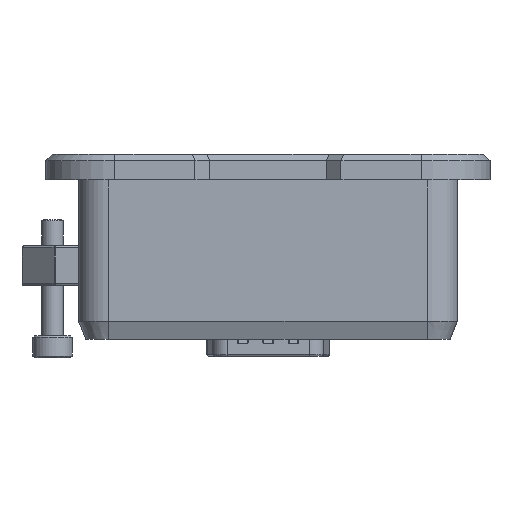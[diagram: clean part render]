
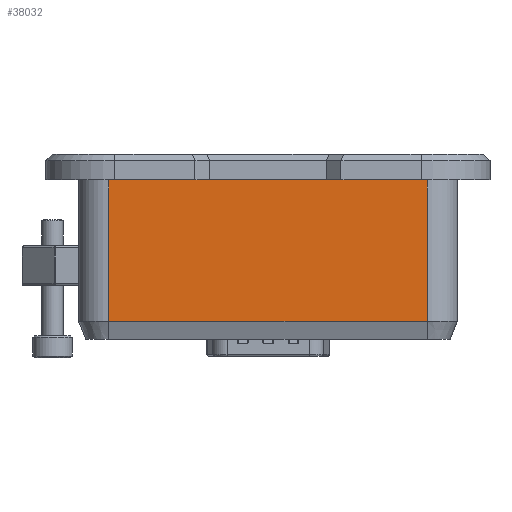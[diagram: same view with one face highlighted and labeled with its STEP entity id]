
A CAD part, left-side view. The second image highlights one B-rep face of the part: STEP entity #38032.
In plain terms, the highlighted planar face has unit normal (-1, 0, 0).
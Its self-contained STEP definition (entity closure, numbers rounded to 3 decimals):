
#5754=FACE_OUTER_BOUND('',#8120,.T.);
#8120=EDGE_LOOP('',(#31806,#31807,#31808,#31809));
#10894=LINE('',#73492,#13897);
#10947=LINE('',#73622,#13950);
#11113=LINE('',#74054,#14116);
#11114=LINE('',#74055,#14117);
#13897=VECTOR('',#48204,10.);
#13950=VECTOR('',#48315,10.);
#14116=VECTOR('',#48673,10.);
#14117=VECTOR('',#48674,10.);
#17308=VERTEX_POINT('',#73490);
#17309=VERTEX_POINT('',#73491);
#17353=VERTEX_POINT('',#73608);
#17357=VERTEX_POINT('',#73620);
#22200=EDGE_CURVE('',#17308,#17309,#10894,.T.);
#22265=EDGE_CURVE('',#17357,#17353,#10947,.T.);
#22455=EDGE_CURVE('',#17357,#17308,#11113,.T.);
#22456=EDGE_CURVE('',#17353,#17309,#11114,.T.);
#31806=ORIENTED_EDGE('',*,*,#22265,.F.);
#31807=ORIENTED_EDGE('',*,*,#22455,.T.);
#31808=ORIENTED_EDGE('',*,*,#22200,.T.);
#31809=ORIENTED_EDGE('',*,*,#22456,.F.);
#36311=PLANE('',#40963);
#38032=ADVANCED_FACE('',(#5754),#36311,.T.);
#40963=AXIS2_PLACEMENT_3D('',#74053,#48671,#48672);
#48204=DIRECTION('',(0.,1.,0.));
#48315=DIRECTION('',(0.,1.,0.));
#48671=DIRECTION('center_axis',(-1.,0.,0.));
#48672=DIRECTION('ref_axis',(0.,-1.,0.));
#48673=DIRECTION('',(0.,0.,1.));
#48674=DIRECTION('',(0.,0.,1.));
#73490=CARTESIAN_POINT('',(-74.184,-19.397,1.344));
#73491=CARTESIAN_POINT('',(-74.184,24.503,1.344));
#73492=CARTESIAN_POINT('',(-74.184,7.103,1.344));
#73608=CARTESIAN_POINT('',(-74.184,24.503,-19.656));
#73620=CARTESIAN_POINT('',(-74.184,-19.397,-19.656));
#73622=CARTESIAN_POINT('',(-74.184,7.103,-19.656));
#74053=CARTESIAN_POINT('Origin',(-74.184,11.653,1.344));
#74054=CARTESIAN_POINT('',(-74.184,-19.397,-18.656));
#74055=CARTESIAN_POINT('',(-74.184,24.503,-0.156));
